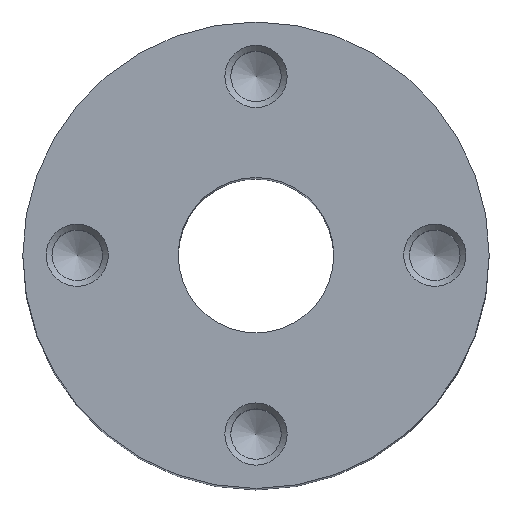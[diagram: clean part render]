
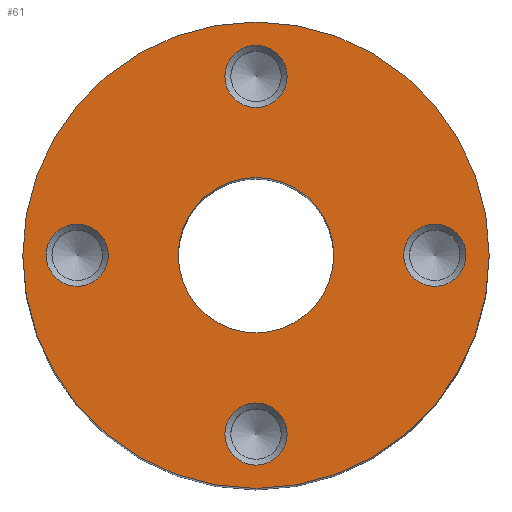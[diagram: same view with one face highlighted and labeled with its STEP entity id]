
A CAD part, top view. The second image highlights one B-rep face of the part: STEP entity #61.
In plain terms, the highlighted planar face has unit normal (0, 0, 1).
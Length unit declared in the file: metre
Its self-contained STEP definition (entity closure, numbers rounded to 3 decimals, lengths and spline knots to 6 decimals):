
#61 = ADVANCED_FACE( '', ( #136, #137, #138, #139, #140, #141 ), #142, .T. );
#136 = FACE_BOUND( '', #231, .T. );
#137 = FACE_BOUND( '', #232, .T. );
#138 = FACE_BOUND( '', #233, .T. );
#139 = FACE_BOUND( '', #234, .T. );
#140 = FACE_OUTER_BOUND( '', #235, .T. );
#141 = FACE_BOUND( '', #236, .T. );
#142 = PLANE( '', #237 );
#231 = EDGE_LOOP( '', ( #336 ) );
#232 = EDGE_LOOP( '', ( #337 ) );
#233 = EDGE_LOOP( '', ( #338 ) );
#234 = EDGE_LOOP( '', ( #339 ) );
#235 = EDGE_LOOP( '', ( #340 ) );
#236 = EDGE_LOOP( '', ( #341 ) );
#237 = AXIS2_PLACEMENT_3D( '', #342, #343, #344 );
#336 = ORIENTED_EDGE( '', *, *, #439, .T. );
#337 = ORIENTED_EDGE( '', *, *, #440, .T. );
#338 = ORIENTED_EDGE( '', *, *, #428, .T. );
#339 = ORIENTED_EDGE( '', *, *, #436, .T. );
#340 = ORIENTED_EDGE( '', *, *, #425, .T. );
#341 = ORIENTED_EDGE( '', *, *, #441, .F. );
#342 = CARTESIAN_POINT( '', ( 0., 0., 0. ) );
#343 = DIRECTION( '', ( 0., 0., 1. ) );
#344 = DIRECTION( '', ( 1., 0., 0. ) );
#425 = EDGE_CURVE( '', #474, #474, #475, .T. );
#428 = EDGE_CURVE( '', #479, #479, #480, .T. );
#436 = EDGE_CURVE( '', #492, #492, #493, .T. );
#439 = EDGE_CURVE( '', #496, #496, #497, .T. );
#440 = EDGE_CURVE( '', #498, #498, #499, .T. );
#441 = EDGE_CURVE( '', #500, #500, #501, .T. );
#474 = VERTEX_POINT( '', #537 );
#475 = CIRCLE( '', #538, 0.015 );
#479 = VERTEX_POINT( '', #542 );
#480 = CIRCLE( '', #543, 0.002 );
#492 = VERTEX_POINT( '', #555 );
#493 = CIRCLE( '', #556, 0.002 );
#496 = VERTEX_POINT( '', #559 );
#497 = CIRCLE( '', #560, 0.002 );
#498 = VERTEX_POINT( '', #561 );
#499 = CIRCLE( '', #562, 0.002 );
#500 = VERTEX_POINT( '', #563 );
#501 = CIRCLE( '', #564, 0.005 );
#537 = CARTESIAN_POINT( '', ( 0.015, 0., 0. ) );
#538 = AXIS2_PLACEMENT_3D( '', #601, #602, #603 );
#542 = CARTESIAN_POINT( '', ( 0., 0.0135, 0. ) );
#543 = AXIS2_PLACEMENT_3D( '', #607, #608, #609 );
#555 = CARTESIAN_POINT( '', ( 0.0135, 0., 0. ) );
#556 = AXIS2_PLACEMENT_3D( '', #622, #623, #624 );
#559 = CARTESIAN_POINT( '', ( 0., -0.0135, 0. ) );
#560 = AXIS2_PLACEMENT_3D( '', #625, #626, #627 );
#561 = CARTESIAN_POINT( '', ( -0.0135, 0., 0. ) );
#562 = AXIS2_PLACEMENT_3D( '', #628, #629, #630 );
#563 = CARTESIAN_POINT( '', ( 0.005, 0., 0. ) );
#564 = AXIS2_PLACEMENT_3D( '', #631, #632, #633 );
#601 = CARTESIAN_POINT( '', ( 0., 0., 0. ) );
#602 = DIRECTION( '', ( 0., 0., 1. ) );
#603 = DIRECTION( '', ( 1., 0., 0. ) );
#607 = CARTESIAN_POINT( '', ( 0., 0.0115, 0. ) );
#608 = DIRECTION( '', ( 0., 0., -1. ) );
#609 = DIRECTION( '', ( 0., 1., 0. ) );
#622 = CARTESIAN_POINT( '', ( 0.0115, 0., 0. ) );
#623 = DIRECTION( '', ( 0., 0., -1. ) );
#624 = DIRECTION( '', ( 1., 0., 0. ) );
#625 = CARTESIAN_POINT( '', ( 0., -0.0115, 0. ) );
#626 = DIRECTION( '', ( 0., 0., -1. ) );
#627 = DIRECTION( '', ( 0., -1., 0. ) );
#628 = CARTESIAN_POINT( '', ( -0.0115, 0., 0. ) );
#629 = DIRECTION( '', ( 0., 0., -1. ) );
#630 = DIRECTION( '', ( -1., 0., 0. ) );
#631 = CARTESIAN_POINT( '', ( 0., 0., 0. ) );
#632 = DIRECTION( '', ( 0., 0., 1. ) );
#633 = DIRECTION( '', ( 1., 0., 0. ) );
